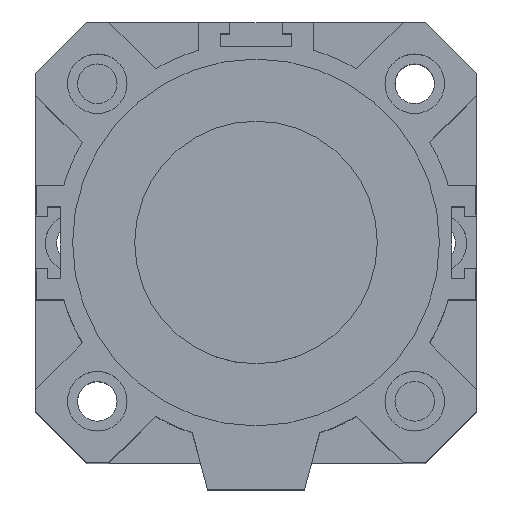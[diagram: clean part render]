
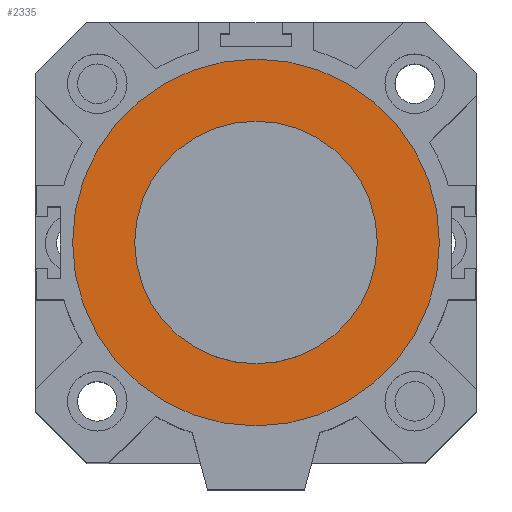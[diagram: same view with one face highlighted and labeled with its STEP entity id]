
A CAD part, top view. The second image highlights one B-rep face of the part: STEP entity #2335.
In plain terms, the highlighted planar face has unit normal (0, 0, 1).
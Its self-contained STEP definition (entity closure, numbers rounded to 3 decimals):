
#449=PLANE('',#2486);
#547=FACE_BOUND('',#766,.T.);
#548=FACE_BOUND('',#767,.T.);
#766=EDGE_LOOP('',(#1592));
#767=EDGE_LOOP('',(#1593));
#977=CIRCLE('',#2481,27.5);
#979=CIRCLE('',#2484,41.6);
#1065=VERTEX_POINT('',#3388);
#1067=VERTEX_POINT('',#3393);
#1287=EDGE_CURVE('',#1065,#1065,#977,.T.);
#1289=EDGE_CURVE('',#1067,#1067,#979,.T.);
#1592=ORIENTED_EDGE('',*,*,#1287,.F.);
#1593=ORIENTED_EDGE('',*,*,#1289,.F.);
#2335=ADVANCED_FACE('',(#547,#548),#449,.T.);
#2481=AXIS2_PLACEMENT_3D('',#3389,#2720,#2721);
#2484=AXIS2_PLACEMENT_3D('',#3394,#2726,#2727);
#2486=AXIS2_PLACEMENT_3D('',#3397,#2730,#2731);
#2720=DIRECTION('center_axis',(0.,0.,1.));
#2721=DIRECTION('ref_axis',(-1.,0.,0.));
#2726=DIRECTION('center_axis',(0.,0.,-1.));
#2727=DIRECTION('ref_axis',(-1.,0.,0.));
#2730=DIRECTION('center_axis',(0.,0.,1.));
#2731=DIRECTION('ref_axis',(1.,0.,0.));
#3388=CARTESIAN_POINT('',(27.5,0.,34.5));
#3389=CARTESIAN_POINT('Origin',(0.,0.,34.5));
#3393=CARTESIAN_POINT('',(41.6,0.,34.5));
#3394=CARTESIAN_POINT('Origin',(0.,0.,34.5));
#3397=CARTESIAN_POINT('Origin',(0.,0.,
34.5));
